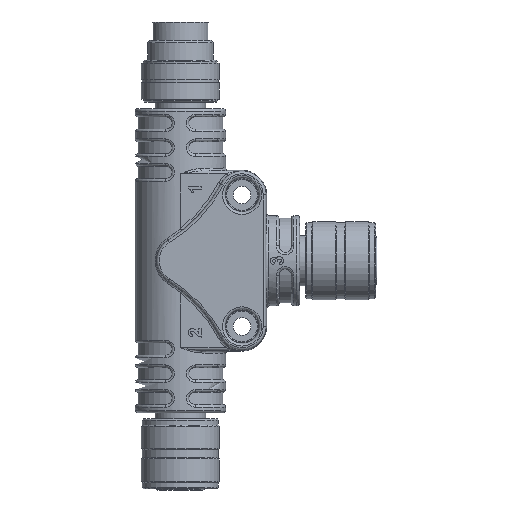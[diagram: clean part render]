
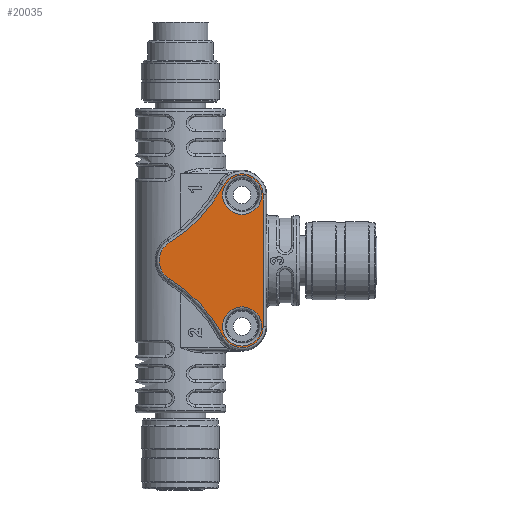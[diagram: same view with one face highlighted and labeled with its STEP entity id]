
A CAD part, front view. The second image highlights one B-rep face of the part: STEP entity #20035.
In plain terms, the highlighted planar face has unit normal (0, -1, 0).
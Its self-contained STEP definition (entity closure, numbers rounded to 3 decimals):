
#19709=CARTESIAN_POINT('',(-2.678,-13.0,4.398));
#19710=VERTEX_POINT('',#19709);
#19718=CARTESIAN_POINT('',(10.439,-13.0,18.389));
#19719=VERTEX_POINT('',#19718);
#19720=CARTESIAN_POINT('',(-21.321,-13.0,35.02));
#19721=DIRECTION('',(0.0,-1.0,0.0));
#19722=DIRECTION('',(0.73,0.0,-0.684));
#19723=AXIS2_PLACEMENT_3D('',#19720,#19721,#19722);
#19724=CIRCLE('',#19723,35.851);
#19725=EDGE_CURVE('',#19710,#19719,#19724,.T.);
#19753=CARTESIAN_POINT('',(-2.678,-13.0,-4.398));
#19754=VERTEX_POINT('',#19753);
#19762=CARTESIAN_POINT('',(0.0,-13.0,0.0));
#19763=DIRECTION('',(0.0,1.0,0.0));
#19764=DIRECTION('',(-1.0,0.0,0.0));
#19765=AXIS2_PLACEMENT_3D('',#19762,#19763,#19764);
#19766=CIRCLE('',#19765,5.149);
#19767=EDGE_CURVE('',#19754,#19710,#19766,.T.);
#19785=CARTESIAN_POINT('',(20.149,-13.0,16.));
#19786=VERTEX_POINT('',#19785);
#19802=CARTESIAN_POINT('',(15.0,-13.0,16.));
#19803=DIRECTION('',(0.0,1.,0.0));
#19804=DIRECTION('',(0.239,0.0,0.971));
#19805=AXIS2_PLACEMENT_3D('',#19802,#19803,#19804);
#19806=CIRCLE('',#19805,5.149);
#19807=EDGE_CURVE('',#19719,#19786,#19806,.T.);
#19819=CARTESIAN_POINT('',(10.439,-13.0,-18.389));
#19820=VERTEX_POINT('',#19819);
#19828=CARTESIAN_POINT('',(-21.321,-13.0,-35.02));
#19829=DIRECTION('',(0.0,-1.,0.0));
#19830=DIRECTION('',(0.73,0.0,0.684));
#19831=AXIS2_PLACEMENT_3D('',#19828,#19829,#19830);
#19832=CIRCLE('',#19831,35.851);
#19833=EDGE_CURVE('',#19820,#19754,#19832,.T.);
#19851=CARTESIAN_POINT('',(20.149,-13.0,-16.0));
#19852=VERTEX_POINT('',#19851);
#19862=CARTESIAN_POINT('',(20.149,-13.0,16.));
#19863=DIRECTION('',(0.0,0.0,-1.0));
#19864=VECTOR('',#19863,32.0);
#19865=LINE('',#19862,#19864);
#19866=EDGE_CURVE('',#19786,#19852,#19865,.T.);
#19885=CARTESIAN_POINT('',(15.,-13.0,-16.));
#19886=DIRECTION('',(0.0,1.,0.0));
#19887=DIRECTION('',(0.239,0.0,-0.971));
#19888=AXIS2_PLACEMENT_3D('',#19885,#19886,#19887);
#19889=CIRCLE('',#19888,5.149);
#19890=EDGE_CURVE('',#19852,#19820,#19889,.T.);
#20000=CARTESIAN_POINT('',(11.099,-13.0,0.0));
#20001=DIRECTION('',(0.0,1.0,0.0));
#20002=DIRECTION('',(0.0,0.0,1.0));
#20003=AXIS2_PLACEMENT_3D('',#20000,#20001,#20002);
#20004=PLANE('',#20003);
#20005=ORIENTED_EDGE('',*,*,#19725,.F.);
#20006=ORIENTED_EDGE('',*,*,#19767,.F.);
#20007=ORIENTED_EDGE('',*,*,#19833,.F.);
#20008=ORIENTED_EDGE('',*,*,#19890,.F.);
#20009=ORIENTED_EDGE('',*,*,#19866,.F.);
#20010=ORIENTED_EDGE('',*,*,#19807,.F.);
#20011=EDGE_LOOP('',(#20005,#20006,#20007,#20008,#20009,#20010));
#20012=FACE_OUTER_BOUND('',#20011,.T.);
#20013=CARTESIAN_POINT('',(10.23,-13.0,16.));
#20014=VERTEX_POINT('',#20013);
#20015=CARTESIAN_POINT('',(15.0,-13.0,16.));
#20016=DIRECTION('',(0.0,-1.0,0.0));
#20017=DIRECTION('',(1.0,0.0,0.0));
#20018=AXIS2_PLACEMENT_3D('',#20015,#20016,#20017);
#20019=CIRCLE('',#20018,4.77);
#20020=EDGE_CURVE('',#20014,#20014,#20019,.T.);
#20021=ORIENTED_EDGE('',*,*,#20020,.F.);
#20022=EDGE_LOOP('',(#20021));
#20023=FACE_BOUND('',#20022,.T.);
#20024=CARTESIAN_POINT('',(10.23,-13.0,-16.));
#20025=VERTEX_POINT('',#20024);
#20026=CARTESIAN_POINT('',(15.,-13.0,-16.));
#20027=DIRECTION('',(0.0,-1.0,0.0));
#20028=DIRECTION('',(1.0,0.0,0.0));
#20029=AXIS2_PLACEMENT_3D('',#20026,#20027,#20028);
#20030=CIRCLE('',#20029,4.77);
#20031=EDGE_CURVE('',#20025,#20025,#20030,.T.);
#20032=ORIENTED_EDGE('',*,*,#20031,.F.);
#20033=EDGE_LOOP('',(#20032));
#20034=FACE_BOUND('',#20033,.T.);
#20035=ADVANCED_FACE('',(#20012,#20023,#20034),#20004,.F.);
